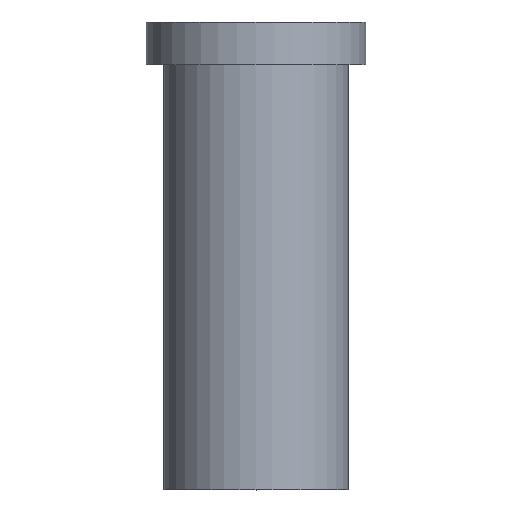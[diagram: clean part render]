
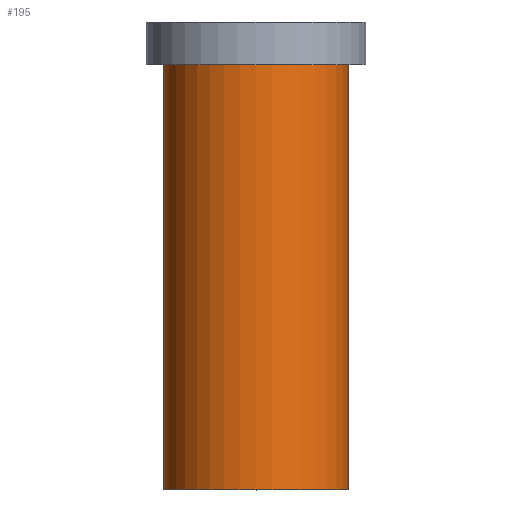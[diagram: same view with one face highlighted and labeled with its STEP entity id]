
A CAD part, top view. The second image highlights one B-rep face of the part: STEP entity #195.
In plain terms, the highlighted cylindrical face has radius 13 mm (diameter 26 mm), a full revolution.
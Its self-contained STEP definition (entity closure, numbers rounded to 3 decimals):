
#32=ORIENTED_EDGE('',*,*,#50,.T.);
#33=ORIENTED_EDGE('',*,*,#49,.F.);
#49=EDGE_CURVE('',#59,#59,#69,.T.);
#50=EDGE_CURVE('',#60,#60,#70,.T.);
#59=VERTEX_POINT('',#280);
#60=VERTEX_POINT('',#283);
#69=CIRCLE('',#213,13.);
#70=CIRCLE('',#215,13.);
#82=EDGE_LOOP('',(#32));
#83=EDGE_LOOP('',(#33));
#102=FACE_BOUND('',#82,.T.);
#103=FACE_BOUND('',#83,.T.);
#117=CYLINDRICAL_SURFACE('',#214,13.);
#195=ADVANCED_FACE('',(#102,#103),#117,.T.);
#213=AXIS2_PLACEMENT_3D('',#279,#241,#242);
#214=AXIS2_PLACEMENT_3D('',#281,#243,#244);
#215=AXIS2_PLACEMENT_3D('',#282,#245,#246);
#241=DIRECTION('',(0.,-1.,0.));
#242=DIRECTION('',(0.,0.,-1.));
#243=DIRECTION('',(0.,-1.,0.));
#244=DIRECTION('',(0.,0.,-1.));
#245=DIRECTION('',(0.,-1.,0.));
#246=DIRECTION('',(0.,0.,-1.));
#279=CARTESIAN_POINT('',(0.,0.,0.));
#280=CARTESIAN_POINT('',(0.,0.,-13.));
#281=CARTESIAN_POINT('',(0.,0.,0.));
#282=CARTESIAN_POINT('',(0.,60.,0.));
#283=CARTESIAN_POINT('',(0.,60.,-13.));
